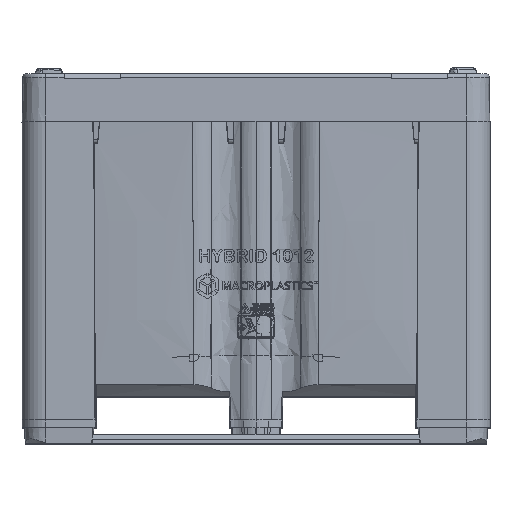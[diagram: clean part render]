
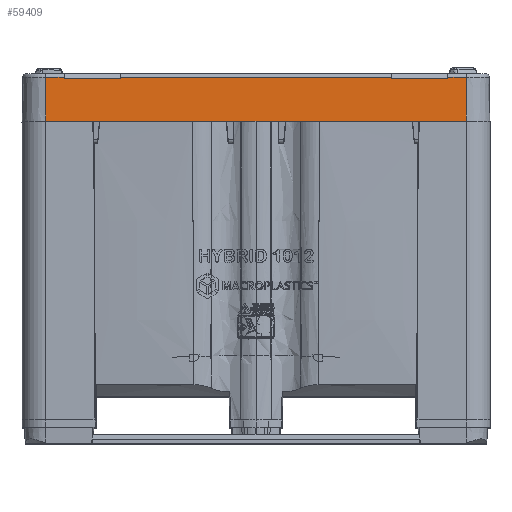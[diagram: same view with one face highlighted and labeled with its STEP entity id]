
A CAD part, top view. The second image highlights one B-rep face of the part: STEP entity #59409.
In plain terms, the highlighted planar face has unit normal (0, 0.018, 1).
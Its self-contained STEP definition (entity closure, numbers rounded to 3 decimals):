
#30 = EDGE_CURVE ( 'NONE', #261943, #203837, #312439, .T. ) ;
#3187 = CARTESIAN_POINT ( 'NONE',  ( -410., 779.301, 598.413 ) ) ;
#13230 = VECTOR ( 'NONE', #198002, 1000. ) ;
#19464 = DIRECTION ( 'NONE',  ( 1., 0., 0. ) ) ;
#19574 = ORIENTED_EDGE ( 'NONE', *, *, #218429, .T. ) ;
#21115 = ORIENTED_EDGE ( 'NONE', *, *, #124407, .T. ) ;
#38966 = VECTOR ( 'NONE', #268028, 1000. ) ;
#41931 = ORIENTED_EDGE ( 'NONE', *, *, #247964, .F. ) ;
#47088 = DIRECTION ( 'NONE',  ( 0., 1., -0.017 ) ) ;
#50177 = ORIENTED_EDGE ( 'NONE', *, *, #181244, .F. ) ;
#51197 = LINE ( 'NONE', #193744, #38966 ) ;
#51228 = VECTOR ( 'NONE', #287909, 1000. ) ;
#51319 = DIRECTION ( 'NONE',  ( 0.012, 1., -0.017 ) ) ;
#55112 = LINE ( 'NONE', #286800, #51228 ) ;
#55192 = DIRECTION ( 'NONE',  ( -0.012, 1., -0.017 ) ) ;
#59409 = ADVANCED_FACE ( 'NONE', ( #87415 ), #235003, .T. ) ;
#59867 = CARTESIAN_POINT ( 'NONE',  ( 449.2, 688.4, 600. ) ) ;
#64880 = VECTOR ( 'NONE', #97575, 1000. ) ;
#77249 = CARTESIAN_POINT ( 'NONE',  ( -449.2, 688.4, 600. ) ) ;
#80709 = DIRECTION ( 'NONE',  ( 0., -1., 0.017 ) ) ;
#84090 = CARTESIAN_POINT ( 'NONE',  ( -289.965, 782.14, 598.364 ) ) ;
#87415 = FACE_OUTER_BOUND ( 'NONE', #289035, .T. ) ;
#89134 = VECTOR ( 'NONE', #19464, 1000. ) ;
#92356 = EDGE_CURVE ( 'NONE', #262395, #261943, #197989, .T. ) ;
#95541 = CARTESIAN_POINT ( 'NONE',  ( 410., 779.301, 598.413 ) ) ;
#97575 = DIRECTION ( 'NONE',  ( -0.012, 1., -0.017 ) ) ;
#101890 = VECTOR ( 'NONE', #154726, 1000. ) ;
#105533 = DIRECTION ( 'NONE',  ( 0., 0.017, 1. ) ) ;
#105705 = ORIENTED_EDGE ( 'NONE', *, *, #325526, .F. ) ;
#106222 = CARTESIAN_POINT ( 'NONE',  ( -410., 779.301, 598.413 ) ) ;
#124407 = EDGE_CURVE ( 'NONE', #262395, #280007, #125301, .T. ) ;
#125301 = LINE ( 'NONE', #332644, #89134 ) ;
#135728 = VERTEX_POINT ( 'NONE', #84090 ) ;
#138869 = VERTEX_POINT ( 'NONE', #310718 ) ;
#145628 = ORIENTED_EDGE ( 'NONE', *, *, #317102, .T. ) ;
#145637 = VECTOR ( 'NONE', #47088, 1000. ) ;
#148428 = CARTESIAN_POINT ( 'NONE',  ( 0., 782.14, 598.364 ) ) ;
#150388 = LINE ( 'NONE', #148428, #13230 ) ;
#154726 = DIRECTION ( 'NONE',  ( 1., 0., 0. ) ) ;
#155217 = CARTESIAN_POINT ( 'NONE',  ( -290., 779.301, 598.413 ) ) ;
#155462 = LINE ( 'NONE', #177802, #308560 ) ;
#163598 = VECTOR ( 'NONE', #55192, 1000. ) ;
#166455 = DIRECTION ( 'NONE',  ( 0., 1., -0.017 ) ) ;
#168498 = VERTEX_POINT ( 'NONE', #208115 ) ;
#168526 = ORIENTED_EDGE ( 'NONE', *, *, #92356, .F. ) ;
#170525 = CARTESIAN_POINT ( 'NONE',  ( 290., 779.301, 598.413 ) ) ;
#176722 = EDGE_CURVE ( 'NONE', #262079, #203837, #300593, .T. ) ;
#177802 = CARTESIAN_POINT ( 'NONE',  ( 410., 779.301, 598.413 ) ) ;
#181244 = EDGE_CURVE ( 'NONE', #262079, #311508, #266930, .T. ) ;
#186514 = ORIENTED_EDGE ( 'NONE', *, *, #237314, .T. ) ;
#187148 = VERTEX_POINT ( 'NONE', #95541 ) ;
#193744 = CARTESIAN_POINT ( 'NONE',  ( 0., 782.14, 598.364 ) ) ;
#197989 = LINE ( 'NONE', #225119, #145637 ) ;
#198002 = DIRECTION ( 'NONE',  ( -1., 0., 0. ) ) ;
#201186 = DIRECTION ( 'NONE',  ( 1., 0., 0. ) ) ;
#202154 = ORIENTED_EDGE ( 'NONE', *, *, #30, .F. ) ;
#203837 = VERTEX_POINT ( 'NONE', #287744 ) ;
#204149 = LINE ( 'NONE', #311516, #268709 ) ;
#208115 = CARTESIAN_POINT ( 'NONE',  ( 449.2, 782.14, 598.364 ) ) ;
#208826 = VECTOR ( 'NONE', #166455, 1000. ) ;
#210753 = CARTESIAN_POINT ( 'NONE',  ( 289.965, 782.14, 598.364 ) ) ;
#218053 = AXIS2_PLACEMENT_3D ( 'NONE', #236094, #105533, #80709 ) ;
#218429 = EDGE_CURVE ( 'NONE', #227740, #135728, #51197, .T. ) ;
#222809 = CARTESIAN_POINT ( 'NONE',  ( -449.2, 782.14, 598.364 ) ) ;
#225119 = CARTESIAN_POINT ( 'NONE',  ( -449.2, 688.4, 600. ) ) ;
#226163 = LINE ( 'NONE', #329561, #64880 ) ;
#227740 = VERTEX_POINT ( 'NONE', #210753 ) ;
#229084 = EDGE_CURVE ( 'NONE', #280007, #168498, #249189, .T. ) ;
#229211 = CARTESIAN_POINT ( 'NONE',  ( 0., 782.14, 598.364 ) ) ;
#234383 = CARTESIAN_POINT ( 'NONE',  ( -410.133, 790.185, 598.223 ) ) ;
#235003 = PLANE ( 'NONE',  #218053 ) ;
#236094 = CARTESIAN_POINT ( 'NONE',  ( 0., 688.4, 600. ) ) ;
#237314 = EDGE_CURVE ( 'NONE', #168498, #138869, #150388, .T. ) ;
#241095 = VERTEX_POINT ( 'NONE', #170525 ) ;
#241909 = CARTESIAN_POINT ( 'NONE',  ( 449.2, 688.4, 600. ) ) ;
#247395 = ORIENTED_EDGE ( 'NONE', *, *, #176722, .T. ) ;
#247964 = EDGE_CURVE ( 'NONE', #311508, #135728, #204149, .T. ) ;
#249189 = LINE ( 'NONE', #241909, #208826 ) ;
#261943 = VERTEX_POINT ( 'NONE', #222809 ) ;
#262079 = VERTEX_POINT ( 'NONE', #3187 ) ;
#262395 = VERTEX_POINT ( 'NONE', #77249 ) ;
#264742 = ORIENTED_EDGE ( 'NONE', *, *, #328068, .T. ) ;
#266930 = LINE ( 'NONE', #106222, #101890 ) ;
#268028 = DIRECTION ( 'NONE',  ( -1., 0., 0. ) ) ;
#268709 = VECTOR ( 'NONE', #51319, 1000. ) ;
#280007 = VERTEX_POINT ( 'NONE', #59867 ) ;
#286800 = CARTESIAN_POINT ( 'NONE',  ( 410.133, 790.185, 598.223 ) ) ;
#287744 = CARTESIAN_POINT ( 'NONE',  ( -410.035, 782.14, 598.364 ) ) ;
#287909 = DIRECTION ( 'NONE',  ( 0.012, 1., -0.017 ) ) ;
#288025 = ORIENTED_EDGE ( 'NONE', *, *, #229084, .T. ) ;
#289035 = EDGE_LOOP ( 'NONE', ( #19574, #41931, #50177, #247395, #202154, #168526, #21115, #288025, #186514, #105705, #264742, #145628 ) ) ;
#300183 = VECTOR ( 'NONE', #201186, 1000. ) ;
#300593 = LINE ( 'NONE', #234383, #163598 ) ;
#308382 = DIRECTION ( 'NONE',  ( -1., 0., 0. ) ) ;
#308560 = VECTOR ( 'NONE', #308382, 1000. ) ;
#310718 = CARTESIAN_POINT ( 'NONE',  ( 410.035, 782.14, 598.364 ) ) ;
#311508 = VERTEX_POINT ( 'NONE', #155217 ) ;
#311516 = CARTESIAN_POINT ( 'NONE',  ( -289.867, 790.185, 598.223 ) ) ;
#312439 = LINE ( 'NONE', #229211, #300183 ) ;
#317102 = EDGE_CURVE ( 'NONE', #241095, #227740, #226163, .T. ) ;
#325526 = EDGE_CURVE ( 'NONE', #187148, #138869, #55112, .T. ) ;
#328068 = EDGE_CURVE ( 'NONE', #187148, #241095, #155462, .T. ) ;
#329561 = CARTESIAN_POINT ( 'NONE',  ( 289.867, 790.185, 598.223 ) ) ;
#332644 = CARTESIAN_POINT ( 'NONE',  ( 0., 688.4, 600. ) ) ;
